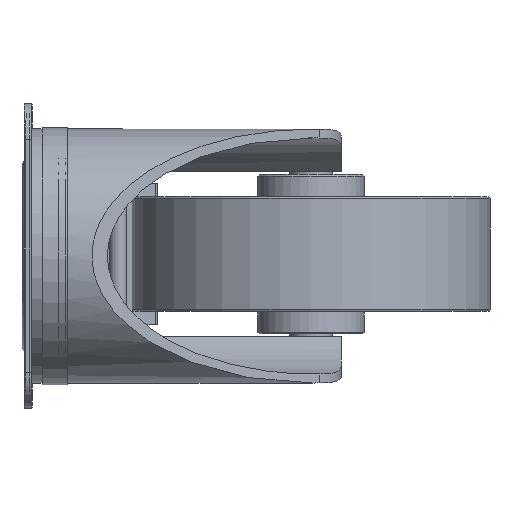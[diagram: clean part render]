
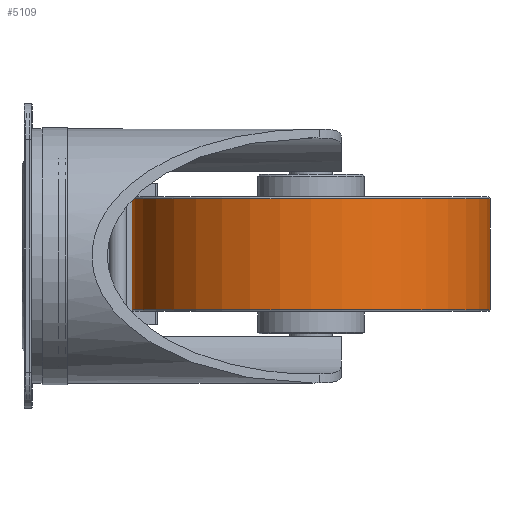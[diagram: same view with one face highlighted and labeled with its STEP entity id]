
A CAD part, left-side view. The second image highlights one B-rep face of the part: STEP entity #5109.
In plain terms, the highlighted cylindrical face has radius 50 mm (diameter 100 mm), a full revolution.
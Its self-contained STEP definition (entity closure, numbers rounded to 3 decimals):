
#374=LINE('',#8087,#754);
#754=VECTOR('',#6375,50.);
#1134=CYLINDRICAL_SURFACE('',#5678,50.);
#1242=FACE_OUTER_BOUND('',#1560,.T.);
#1560=EDGE_LOOP('',(#3537,#3538,#3539,#3540,#3541));
#1934=CIRCLE('',#5676,50.);
#1935=CIRCLE('',#5677,50.);
#1936=CIRCLE('',#5679,50.);
#2261=VERTEX_POINT('',#8079);
#2262=VERTEX_POINT('',#8081);
#2263=VERTEX_POINT('',#8085);
#2759=EDGE_CURVE('',#2261,#2262,#1934,.T.);
#2760=EDGE_CURVE('',#2262,#2261,#1935,.T.);
#2761=EDGE_CURVE('',#2263,#2263,#1936,.T.);
#2762=EDGE_CURVE('',#2263,#2262,#374,.T.);
#3537=ORIENTED_EDGE('',*,*,#2761,.F.);
#3538=ORIENTED_EDGE('',*,*,#2762,.T.);
#3539=ORIENTED_EDGE('',*,*,#2759,.F.);
#3540=ORIENTED_EDGE('',*,*,#2760,.F.);
#3541=ORIENTED_EDGE('',*,*,#2762,.F.);
#5109=ADVANCED_FACE('',(#1242),#1134,.T.);
#5676=AXIS2_PLACEMENT_3D('',#8082,#6367,#6368);
#5677=AXIS2_PLACEMENT_3D('',#8083,#6369,#6370);
#5678=AXIS2_PLACEMENT_3D('',#8084,#6371,#6372);
#5679=AXIS2_PLACEMENT_3D('',#8086,#6373,#6374);
#6367=DIRECTION('center_axis',(0.,0.,-1.));
#6368=DIRECTION('ref_axis',(-1.,0.,0.));
#6369=DIRECTION('center_axis',(0.,0.,-1.));
#6370=DIRECTION('ref_axis',(-1.,0.,0.));
#6371=DIRECTION('center_axis',(0.,0.,1.));
#6372=DIRECTION('ref_axis',(1.,0.,0.));
#6373=DIRECTION('center_axis',(0.,0.,1.));
#6374=DIRECTION('ref_axis',(-1.,0.,0.));
#6375=DIRECTION('',(0.,0.,-1.));
#8079=CARTESIAN_POINT('',(50.,0.,-15.5));
#8081=CARTESIAN_POINT('',(-50.,0.,-15.5));
#8082=CARTESIAN_POINT('Origin',(0.,0.,-15.5));
#8083=CARTESIAN_POINT('Origin',(0.,0.,-15.5));
#8084=CARTESIAN_POINT('Origin',(0.,0.,0.));
#8085=CARTESIAN_POINT('',(-50.,0.,15.5));
#8086=CARTESIAN_POINT('Origin',(0.,0.,15.5));
#8087=CARTESIAN_POINT('',(-50.,0.,0.));
